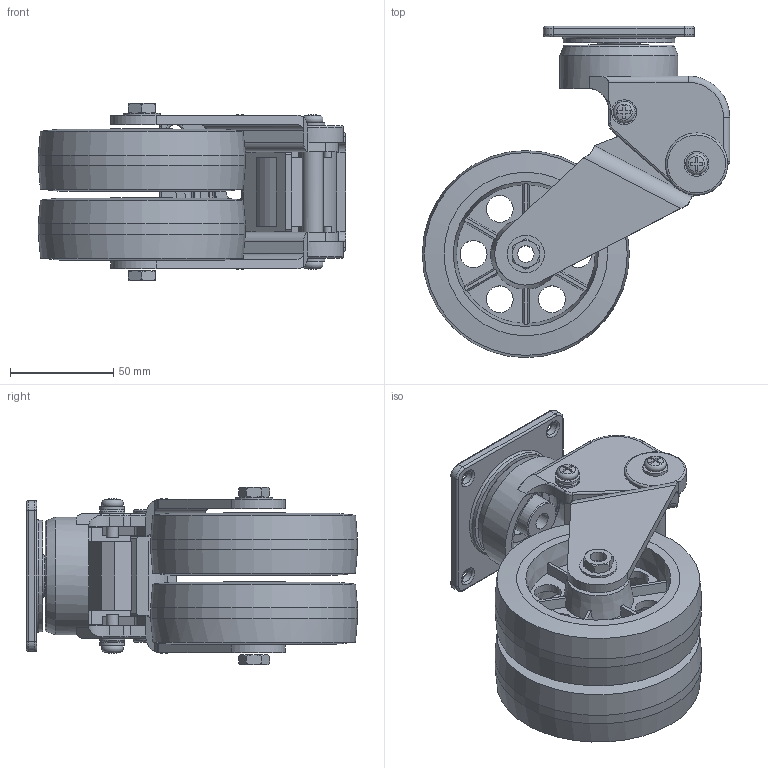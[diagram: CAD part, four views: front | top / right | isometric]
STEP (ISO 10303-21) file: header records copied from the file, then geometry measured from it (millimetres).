
FILE_DESCRIPTION((''),'2;1');
FILE_NAME('C:\Documents and Settings\Administrator\바탕 화면\3D STEP\GDS-SERIES\GDSD-100\GDSD-100-ARF.stp','2010-12-27T14:00:01',('Administrator'),(''),'Autodesk Inventor 2009','Autodesk Inventor 2009','');
FILE_SCHEMA(('AUTOMOTIVE_DESIGN { 1 0 10303 214 1 1 1 1 }'));
Length unit declared in the file: millimetre
Products named in the file (1): GDSD-100-ARF
Bounding box: 148.5 x 160 x 86 mm (x, y, z)
Volume: 175854.4 mm3; surface area: 136773.2 mm2
Topology: 5 solids, 6 shells, 558 faces, 1500 edges, 960 vertices
Faces by surface type: plane 330, cylinder 132, cone 51, torus 37, bspline 8
Full cylindrical faces by diameter (mm): 6 x6, 7 x4, 8 x3, 8.4 x1, 8.5 x1, 10 x1, 10.1 x2, 10.2 x2, 10.7 x1, 12 x2, 13 x12, 18 x1, 19.8 x1, 20 x3, 22 x4, 25 x1, 25.5 x1, 30 x2, 39.4 x1, 40.2 x1, 40.4 x1, 54 x1, 57 x1, 100 x2
Entity records: 17360 total; most frequent: CARTESIAN_POINT 3720, DIRECTION 2952, ORIENTED_EDGE 2684, EDGE_CURVE 1342, AXIS2_PLACEMENT_3D 1169, VERTEX_POINT 914, EDGE_LOOP 754, VECTOR 614
